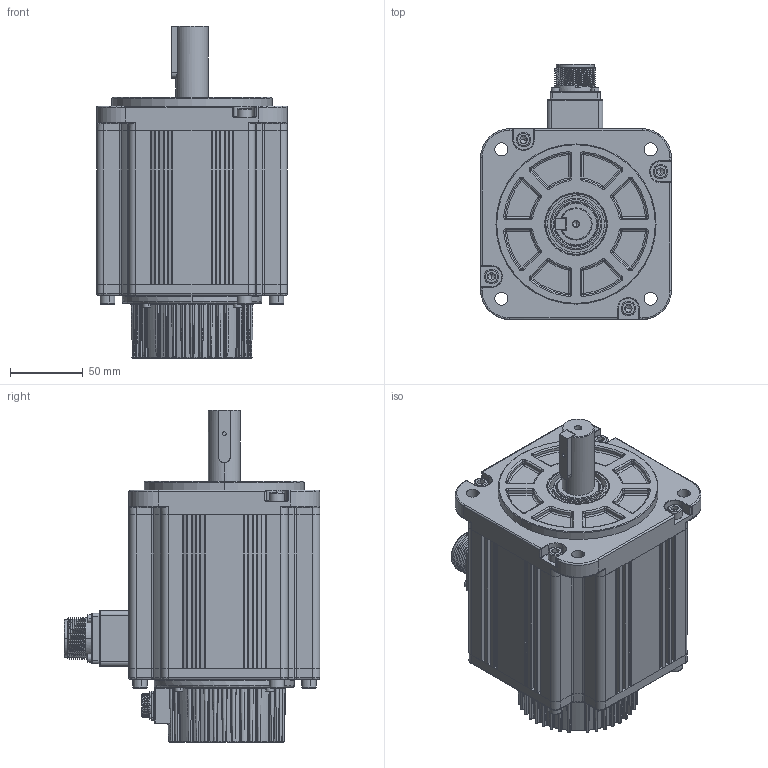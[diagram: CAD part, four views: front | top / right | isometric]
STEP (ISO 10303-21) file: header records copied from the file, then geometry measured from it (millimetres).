
FILE_DESCRIPTION (( 'STEP AP214' ), '1' );
FILE_NAME ('V7E-M18A-1R815-D1.STEP', '2021-08-09T07:05:54', ( '' ), ( '' ), 'SwSTEP 2.0', 'SolidWorks 2014', '' );
FILE_SCHEMA (( 'AUTOMOTIVE_DESIGN' ));
Length unit declared in the file: millimetre
Products named in the file (18): 雄薯瑤脣釱200909; 130陔ヶ傷裔200902; 零件1^V7-130#电机组件（不带刹车）200927; 囀鞠褒 M6X20; 粣200907; SC瑤諾脣芛 16M-9H; 蚐猾 D00B999YF7-TC 30-42-7; 坋趼攫芛 M2X8; V7-130#转子组件（不带刹车）; SC瑤諾脣芛 CMS3102A18-10P-Z; 囀鞠褒 M3X30; 130陔ヶ傷裔200917; V7E-M18A-1R815-D1; 儂褲200901; SC晤鎢ん欶200908_9郋; 囀鞠褒 M3X10; V7-130#定子组件（不带刹车）; 綴傷裔200903-4晚源倛
Assembly tree (33 placements, depth 4):
  V7E-M18A-1R815-D1
    V7-130#定子组件（不带刹车）
      囀鞠褒 M6X20  x4
      130陔ヶ傷裔200917
        130陔ヶ傷裔200902
    V7-130#转子组件（不带刹车）
      粣200907
    SC瑤諾脣芛 16M-9H
    囀鞠褒 M6X20  x4
    SC晤鎢ん欶200908_9郋
    囀鞠褒 M3X10  x4
    坋趼攫芛 M2X8  x4
    蚐猾 D00B999YF7-TC 30-42-7
    零件1^V7-130#电机组件（不带刹车）200927
    綴傷裔200903-4晚源倛
    儂褲200901
    SC瑤諾脣芛 CMS3102A18-10P-Z
    雄薯瑤脣釱200909
    囀鞠褒 M3X30  x4
Bounding box: 131 x 175.4 x 228 mm (x, y, z)
Volume: 809147.8 mm3; surface area: 307830.6 mm2
Topology: 30 solids, 30 shells, 2910 faces, 6962 edges, 4001 vertices
Faces by surface type: cylinder 1032, bspline 933, plane 684, cone 225, torus 32, sphere 4
Entity records: 134948 total; most frequent: CARTESIAN_POINT 57264, ORIENTED_EDGE 11686, DIRECTION 9842, EDGE_CURVE 5843, AXIS2_PLACEMENT_3D 3967, VERTEX_POINT 3440, EDGE_LOOP 2695, FACE_OUTER_BOUND 2513
